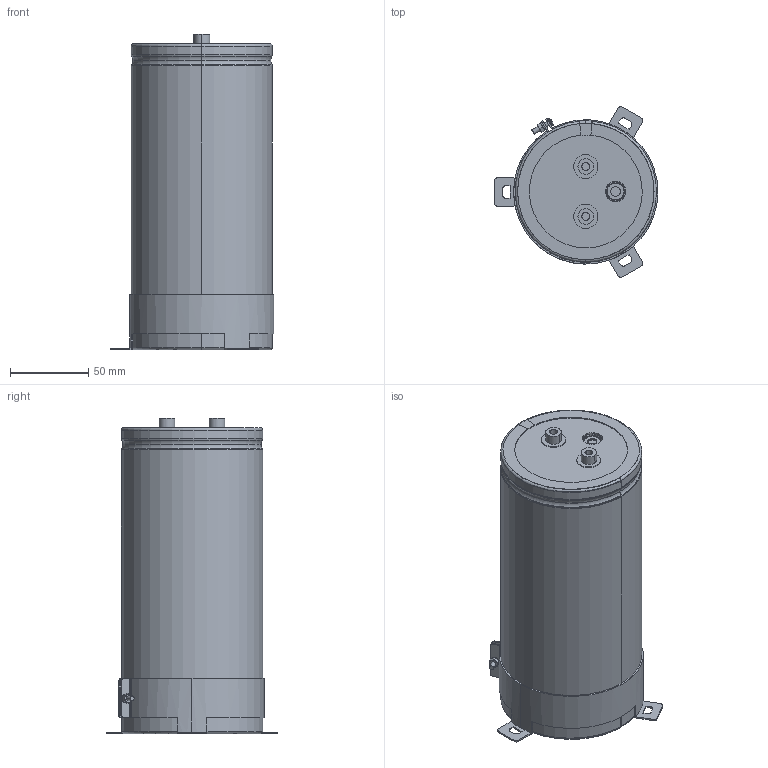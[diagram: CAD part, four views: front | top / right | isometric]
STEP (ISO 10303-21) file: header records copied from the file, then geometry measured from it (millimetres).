
FILE_DESCRIPTION(('STEP AP214'),'1');
FILE_NAME('90x195_Screw.stp','2022-03-14T08:48:17',(' '),(' '),'Spatial InterOp 3D',' ',' ');
FILE_SCHEMA(('AUTOMOTIVE_DESIGN { 1 0 10303 214 1 1 1 1 }'));
Length unit declared in the file: metre
Products named in the file (10): 90x195_Screw; Component1; Component2; Component3; Component4; Component5; Component6; Component7; Component8; Component9
Assembly tree (9 placements, depth 2):
  90x195_Screw
    Component1
    Component2
    Component3
    Component4
    Component5
    Component6
    Component7
    Component8
    Component9
Bounding box: 104.5 x 108.86 x 201 mm (x, y, z)
Volume: 1243096.7 mm3; surface area: 204646.5 mm2
Topology: 9 solids, 9 shells, 352 faces, 873 edges, 551 vertices
Faces by surface type: plane 112, cylinder 110, torus 90, cone 38, sphere 2
Entity records: 11474 total; most frequent: DIRECTION 2126, CARTESIAN_POINT 1918, ORIENTED_EDGE 1746, AXIS2_PLACEMENT_3D 919, EDGE_CURVE 873, VERTEX_POINT 551, CIRCLE 511, EDGE_LOOP 380
